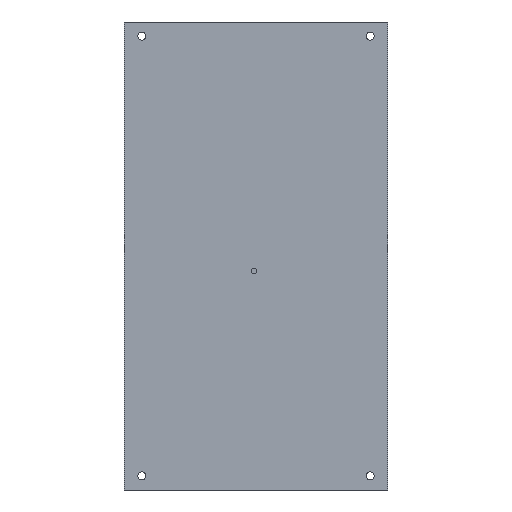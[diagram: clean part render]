
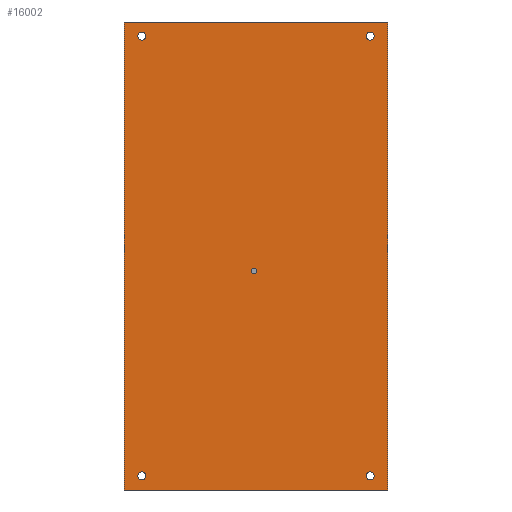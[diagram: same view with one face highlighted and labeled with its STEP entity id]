
A CAD part, front view. The second image highlights one B-rep face of the part: STEP entity #16002.
In plain terms, the highlighted planar face has unit normal (0, -1, 0).
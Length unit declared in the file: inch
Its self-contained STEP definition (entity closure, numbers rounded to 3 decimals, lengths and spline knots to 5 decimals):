
#365=FACE_BOUND('',#5672,.T.);
#366=FACE_BOUND('',#5673,.T.);
#367=FACE_BOUND('',#5674,.T.);
#368=FACE_BOUND('',#5675,.T.);
#369=FACE_BOUND('',#5676,.T.);
#1890=LINE('',#23956,#3268);
#1904=LINE('',#24007,#3282);
#1923=LINE('',#24067,#3301);
#1924=LINE('',#24069,#3302);
#3268=VECTOR('',#19032,0.3937);
#3282=VECTOR('',#19076,0.3937);
#3301=VECTOR('',#19165,0.3937);
#3302=VECTOR('',#19168,0.3937);
#4627=FACE_OUTER_BOUND('',#5671,.T.);
#5671=EDGE_LOOP('',(#11376,#11377,#11378,#11379));
#5672=EDGE_LOOP('',(#11380));
#5673=EDGE_LOOP('',(#11381));
#5674=EDGE_LOOP('',(#11382));
#5675=EDGE_LOOP('',(#11383));
#5676=EDGE_LOOP('',(#11384));
#6858=CIRCLE('',#17093,0.05906);
#6859=CIRCLE('',#17098,0.08465);
#6860=CIRCLE('',#17100,0.08465);
#6861=CIRCLE('',#17102,0.08465);
#6862=CIRCLE('',#17104,0.08465);
#7539=VERTEX_POINT('',#23953);
#7540=VERTEX_POINT('',#23955);
#7562=VERTEX_POINT('',#24005);
#7563=VERTEX_POINT('',#24047);
#7564=VERTEX_POINT('',#24053);
#7565=VERTEX_POINT('',#24056);
#7566=VERTEX_POINT('',#24059);
#7567=VERTEX_POINT('',#24062);
#7568=VERTEX_POINT('',#24065);
#8954=EDGE_CURVE('',#7540,#7539,#1890,.T.);
#8981=EDGE_CURVE('',#7539,#7562,#1904,.T.);
#8999=EDGE_CURVE('',#7563,#7563,#6858,.T.);
#9000=EDGE_CURVE('',#7564,#7564,#6859,.T.);
#9001=EDGE_CURVE('',#7565,#7565,#6860,.T.);
#9002=EDGE_CURVE('',#7566,#7566,#6861,.T.);
#9003=EDGE_CURVE('',#7567,#7567,#6862,.T.);
#9005=EDGE_CURVE('',#7562,#7568,#1923,.T.);
#9006=EDGE_CURVE('',#7568,#7540,#1924,.T.);
#11376=ORIENTED_EDGE('',*,*,#9006,.T.);
#11377=ORIENTED_EDGE('',*,*,#8954,.T.);
#11378=ORIENTED_EDGE('',*,*,#8981,.T.);
#11379=ORIENTED_EDGE('',*,*,#9005,.T.);
#11380=ORIENTED_EDGE('',*,*,#8999,.T.);
#11381=ORIENTED_EDGE('',*,*,#9000,.T.);
#11382=ORIENTED_EDGE('',*,*,#9001,.T.);
#11383=ORIENTED_EDGE('',*,*,#9002,.T.);
#11384=ORIENTED_EDGE('',*,*,#9003,.T.);
#15370=PLANE('',#17107);
#16002=ADVANCED_FACE('',(#4627,#365,#366,#367,#368,#369),#15370,.T.);
#17093=AXIS2_PLACEMENT_3D('',#24048,#19138,#19139);
#17098=AXIS2_PLACEMENT_3D('',#24054,#19148,#19149);
#17100=AXIS2_PLACEMENT_3D('',#24057,#19152,#19153);
#17102=AXIS2_PLACEMENT_3D('',#24060,#19156,#19157);
#17104=AXIS2_PLACEMENT_3D('',#24063,#19160,#19161);
#17107=AXIS2_PLACEMENT_3D('',#24070,#19169,#19170);
#19032=DIRECTION('',(0.,0.,-1.));
#19076=DIRECTION('',(1.,0.,0.));
#19138=DIRECTION('center_axis',(0.,1.,0.));
#19139=DIRECTION('ref_axis',(1.,0.,0.));
#19148=DIRECTION('center_axis',(0.,1.,0.));
#19149=DIRECTION('ref_axis',(1.,0.,0.));
#19152=DIRECTION('center_axis',(0.,1.,0.));
#19153=DIRECTION('ref_axis',(1.,0.,0.));
#19156=DIRECTION('center_axis',(0.,1.,0.));
#19157=DIRECTION('ref_axis',(1.,0.,0.));
#19160=DIRECTION('center_axis',(0.,1.,0.));
#19161=DIRECTION('ref_axis',(1.,0.,0.));
#19165=DIRECTION('',(0.,0.,1.));
#19168=DIRECTION('',(-1.,0.,0.));
#19169=DIRECTION('center_axis',(0.,-1.,0.));
#19170=DIRECTION('ref_axis',(0.,0.,-1.));
#23953=CARTESIAN_POINT('',(-2.88615,-0.51435,-4.94094));
#23955=CARTESIAN_POINT('',(-2.88615,-0.51435,4.90157));
#23956=CARTESIAN_POINT('',(-2.88615,-0.51435,4.90157));
#24005=CARTESIAN_POINT('',(2.66503,-0.51435,-4.94094));
#24007=CARTESIAN_POINT('',(-2.88615,-0.51435,-4.94094));
#24047=CARTESIAN_POINT('',(-0.09087,-0.51435,-0.33465));
#24048=CARTESIAN_POINT('Origin',(-0.14993,-0.51435,
-0.33465));
#24053=CARTESIAN_POINT('',(2.20637,-0.51435,-4.64567));
#24054=CARTESIAN_POINT('Origin',(2.29102,-0.51435,-4.64567));
#24056=CARTESIAN_POINT('',(-2.59678,-0.51435,4.6063));
#24057=CARTESIAN_POINT('Origin',(-2.51213,-0.51435,4.6063));
#24059=CARTESIAN_POINT('',(-2.59678,-0.51435,-4.64567));
#24060=CARTESIAN_POINT('Origin',(-2.51213,-0.51435,-4.64567));
#24062=CARTESIAN_POINT('',(2.20637,-0.51435,4.6063));
#24063=CARTESIAN_POINT('Origin',(2.29102,-0.51435,4.6063));
#24065=CARTESIAN_POINT('',(2.66503,-0.51435,4.90157));
#24067=CARTESIAN_POINT('',(2.66503,-0.51435,-4.94094));
#24069=CARTESIAN_POINT('',(2.66503,-0.51435,4.90157));
#24070=CARTESIAN_POINT('Origin',(-0.11056,-0.51435,
-0.01969));
